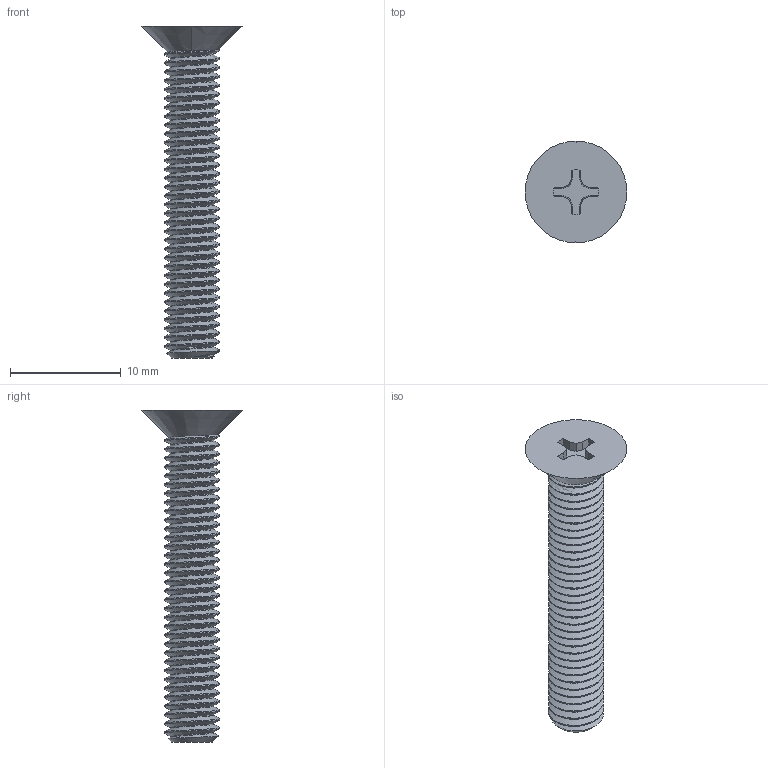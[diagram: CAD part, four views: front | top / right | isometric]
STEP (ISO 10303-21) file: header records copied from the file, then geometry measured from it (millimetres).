
FILE_DESCRIPTION (( 'STEP AP203' ), '1' );
FILE_NAME ('Phillips Flat Head Screw M5.STEP', '2025-05-19T11:32:22', ( '' ), ( '' ), 'SwSTEP 2.0', 'SolidWorks 2024', '' );
FILE_SCHEMA (( 'CONFIG_CONTROL_DESIGN' ));
Length unit declared in the file: millimetre
Products named in the file (1): Phillips Flat Head Screw M5
Bounding box: 9.2 x 9.2 x 30 mm (x, y, z)
Volume: 522.5 mm3; surface area: 838.3 mm2
Topology: 1 solids, 1 shells, 103 faces, 300 edges, 200 vertices
Faces by surface type: cylinder 76, plane 20, cone 4, bspline 3
Entity records: 8921 total; most frequent: CARTESIAN_POINT 6573, ORIENTED_EDGE 600, DIRECTION 363, EDGE_CURVE 300, VERTEX_POINT 200, AXIS2_PLACEMENT_3D 122, VECTOR 119, LINE 119
